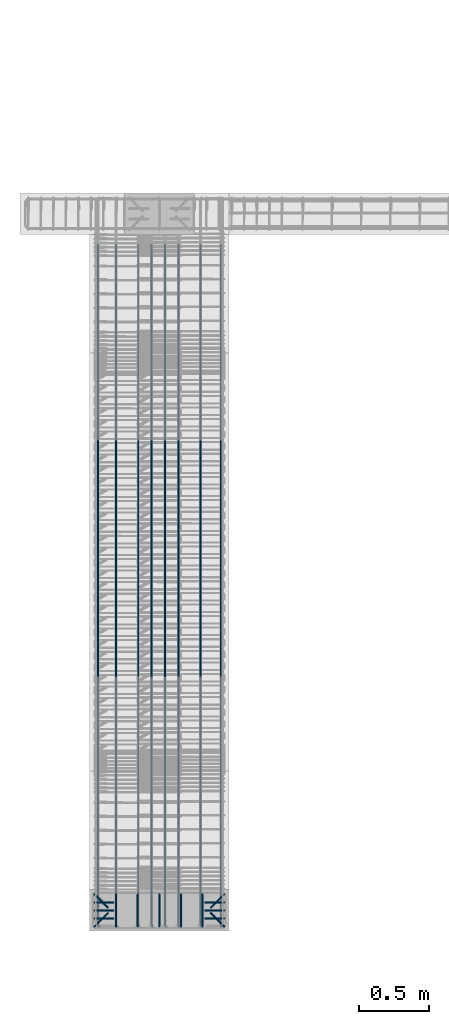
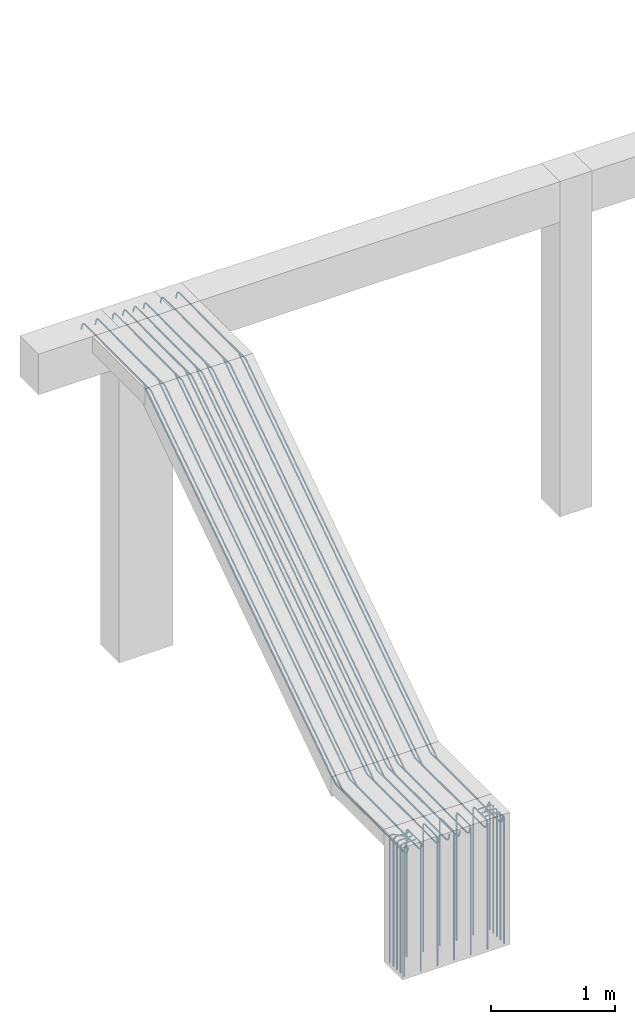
# One storey, part 3 of 24: 3 reinforcing bars.
"""IFC2X3 building model written with IfcOpenShell, lengths in metres."""

from ifc_helpers import new_model, entity, si_unit, direction, frame, origin, place, context, subcontext, project, spatial, shape, source, transform, mapped, element, save


model = new_model("IFC2X3")

# Units and contexts
model_context = context("Model", 3, precision=0.0, world=origin(), true_north=direction((0.0, 1.0)))
plan_context = context("Plan", 3, precision=0.0, world=origin(), true_north=direction((0.0, 1.0)))
body_context = subcontext(model_context, "Body", "Model", "MODEL_VIEW", scale=1.0)
ifc_project = project(units=[si_unit("LENGTHUNIT", "METRE"), si_unit("AREAUNIT", "SQUARE_METRE"), si_unit("VOLUMEUNIT", "CUBIC_METRE"), si_unit("PLANEANGLEUNIT", "RADIAN"), si_unit("THERMODYNAMICTEMPERATUREUNIT", "DEGREE_CELSIUS"), si_unit("FORCEUNIT", "NEWTON"), si_unit("MASSUNIT", "GRAM", prefix="KILO")], contexts=[model_context, plan_context])

# Site, building, storey
placement = place(None, origin())
site = spatial("IfcSite", under=ifc_project, at=placement, Name="Default Site", CompositionType="ELEMENT")
building = spatial("IfcBuilding", under=site, at=placement, Name="Default Building", CompositionType="ELEMENT")
storey_placement = place(placement, frame((0.0, 0.0, 3.3), z_axis=(1.0, 0.0, 0.0), x_axis=(0.0, 0.0, 1.0)))
storey = spatial("IfcBuildingStorey", under=building, at=storey_placement, Name="Piano 2", CompositionType="ELEMENT", Elevation=3.3)

# Reinforcing bars
shared_shape_1 = source(origin(), body_context, None, "AdvancedSweptSolid", [
    entity("IfcSweptDiskSolid", entity("IfcCompositeCurve", [entity("IfcCompositeCurveSegment", "CONTINUOUS", True, entity("IfcPolyline", [entity("IfcCartesianPoint", [0.0, 0.0, 0.0]), entity("IfcCartesianPoint", [0.0, 0.646145, 0.0]), entity("IfcCartesianPoint", [0.0, 0.661676, 0.004703]), entity("IfcCartesianPoint", [0.0, 0.750622, 0.064]), entity("IfcCartesianPoint", [0.0, 3.743568, 2.059297]), entity("IfcCartesianPoint", [0.0, 3.7591, 2.064]), entity("IfcCartesianPoint", [0.0, 4.820997, 2.064]), entity("IfcCartesianPoint", [-0.000736, 4.834997, 2.060322]), entity("IfcCartesianPoint", [-0.002746, 4.845246, 2.050272]), entity("IfcCartesianPoint", [-0.005491, 4.848997, 2.036544]), entity("IfcCartesianPoint", [-0.0128, 4.848997, 2.0])]))], False), 0.007, 0.0, 0.0),
])
shared_shape_2 = source(origin(), body_context, None, "MappedRepresentation", [mapped(shared_shape_1, transform((-3.559, 0.25912, 1.196824)))])
shared_shape_3 = source(origin(), body_context, None, "AdvancedSweptSolid", [
    entity("IfcSweptDiskSolid", entity("IfcCompositeCurve", [entity("IfcCompositeCurveSegment", "CONTINUOUS", True, entity("IfcPolyline", [entity("IfcCartesianPoint", [0.0, 0.0, 0.0]), entity("IfcCartesianPoint", [0.0, 0.646145, 0.0]), entity("IfcCartesianPoint", [0.0, 0.661676, 0.004703]), entity("IfcCartesianPoint", [0.0, 0.750622, 0.064]), entity("IfcCartesianPoint", [0.0, 3.743568, 2.059297]), entity("IfcCartesianPoint", [0.0, 3.7591, 2.064]), entity("IfcCartesianPoint", [0.0, 4.820997, 2.064]), entity("IfcCartesianPoint", [-0.000736, 4.834997, 2.060322]), entity("IfcCartesianPoint", [-0.002746, 4.845246, 2.050272]), entity("IfcCartesianPoint", [-0.005491, 4.848997, 2.036544]), entity("IfcCartesianPoint", [-0.0128, 4.848997, 2.0])]))], False), 0.007, 0.0, 0.0),
])
shared_shape_4 = source(origin(), body_context, None, "MappedRepresentation", [mapped(shared_shape_3, transform((-3.703667, 0.25912, 1.196824)))])
shared_shape_5 = source(origin(), body_context, None, "AdvancedSweptSolid", [
    entity("IfcSweptDiskSolid", entity("IfcCompositeCurve", [entity("IfcCompositeCurveSegment", "CONTINUOUS", True, entity("IfcPolyline", [entity("IfcCartesianPoint", [0.0, 0.0, 0.0]), entity("IfcCartesianPoint", [0.0, 0.646145, 0.0]), entity("IfcCartesianPoint", [0.0, 0.661676, 0.004703]), entity("IfcCartesianPoint", [0.0, 0.750622, 0.064]), entity("IfcCartesianPoint", [0.0, 3.743568, 2.059297]), entity("IfcCartesianPoint", [0.0, 3.7591, 2.064]), entity("IfcCartesianPoint", [0.0, 4.820997, 2.064]), entity("IfcCartesianPoint", [-0.000736, 4.834997, 2.060322]), entity("IfcCartesianPoint", [-0.002746, 4.845246, 2.050272]), entity("IfcCartesianPoint", [-0.005491, 4.848997, 2.036544]), entity("IfcCartesianPoint", [-0.0128, 4.848997, 2.0])]))], False), 0.007, 0.0, 0.0),
])
shared_shape_6 = source(origin(), body_context, None, "MappedRepresentation", [mapped(shared_shape_5, transform((-3.862667, 0.25912, 1.196824)))])
shared_shape_7 = source(origin(), body_context, None, "AdvancedSweptSolid", [
    entity("IfcSweptDiskSolid", entity("IfcCompositeCurve", [entity("IfcCompositeCurveSegment", "CONTINUOUS", True, entity("IfcPolyline", [entity("IfcCartesianPoint", [0.0, 0.0, 0.0]), entity("IfcCartesianPoint", [0.0, 0.646145, 0.0]), entity("IfcCartesianPoint", [0.0, 0.661676, 0.004703]), entity("IfcCartesianPoint", [0.0, 0.750622, 0.064]), entity("IfcCartesianPoint", [0.0, 3.743568, 2.059297]), entity("IfcCartesianPoint", [0.0, 3.7591, 2.064]), entity("IfcCartesianPoint", [0.0, 4.820997, 2.064]), entity("IfcCartesianPoint", [-0.000736, 4.834997, 2.060322]), entity("IfcCartesianPoint", [-0.002746, 4.845246, 2.050272]), entity("IfcCartesianPoint", [-0.005491, 4.848997, 2.036544]), entity("IfcCartesianPoint", [-0.0128, 4.848997, 2.0])]))], False), 0.007, 0.0, 0.0),
])
shared_shape_8 = source(origin(), body_context, None, "MappedRepresentation", [mapped(shared_shape_7, transform((-3.958889, 0.25912, 1.196824)))])
shared_shape_9 = source(origin(), body_context, None, "AdvancedSweptSolid", [
    entity("IfcSweptDiskSolid", entity("IfcCompositeCurve", [entity("IfcCompositeCurveSegment", "CONTINUOUS", True, entity("IfcPolyline", [entity("IfcCartesianPoint", [0.0, 0.0, 0.0]), entity("IfcCartesianPoint", [0.0, 0.646145, 0.0]), entity("IfcCartesianPoint", [0.0, 0.661676, 0.004703]), entity("IfcCartesianPoint", [0.0, 0.750622, 0.064]), entity("IfcCartesianPoint", [0.0, 3.743568, 2.059297]), entity("IfcCartesianPoint", [0.0, 3.7591, 2.064]), entity("IfcCartesianPoint", [0.0, 4.820997, 2.064]), entity("IfcCartesianPoint", [-0.000736, 4.834997, 2.060322]), entity("IfcCartesianPoint", [-0.002746, 4.845246, 2.050272]), entity("IfcCartesianPoint", [-0.005491, 4.848997, 2.036544]), entity("IfcCartesianPoint", [-0.0128, 4.848997, 2.0])]))], False), 0.007, 0.0, 0.0),
])
shared_shape_10 = source(origin(), body_context, None, "MappedRepresentation", [mapped(shared_shape_9, transform((-4.055111, 0.25912, 1.196824)))])
shared_shape_11 = source(origin(), body_context, None, "AdvancedSweptSolid", [
    entity("IfcSweptDiskSolid", entity("IfcCompositeCurve", [entity("IfcCompositeCurveSegment", "CONTINUOUS", True, entity("IfcPolyline", [entity("IfcCartesianPoint", [0.0, 0.0, 0.0]), entity("IfcCartesianPoint", [0.0, 0.646145, 0.0]), entity("IfcCartesianPoint", [0.0, 0.661676, 0.004703]), entity("IfcCartesianPoint", [0.0, 0.750622, 0.064]), entity("IfcCartesianPoint", [0.0, 3.743568, 2.059297]), entity("IfcCartesianPoint", [0.0, 3.7591, 2.064]), entity("IfcCartesianPoint", [0.0, 4.820997, 2.064]), entity("IfcCartesianPoint", [-0.000736, 4.834997, 2.060322]), entity("IfcCartesianPoint", [-0.002746, 4.845246, 2.050272]), entity("IfcCartesianPoint", [-0.005491, 4.848997, 2.036544]), entity("IfcCartesianPoint", [-0.0128, 4.848997, 2.0])]))], False), 0.007, 0.0, 0.0),
])
shared_shape_12 = source(origin(), body_context, None, "MappedRepresentation", [mapped(shared_shape_11, transform((-4.151333, 0.25912, 1.196824)))])
shared_shape_13 = source(origin(), body_context, None, "AdvancedSweptSolid", [
    entity("IfcSweptDiskSolid", entity("IfcCompositeCurve", [entity("IfcCompositeCurveSegment", "CONTINUOUS", True, entity("IfcPolyline", [entity("IfcCartesianPoint", [0.0, 0.0, 0.0]), entity("IfcCartesianPoint", [0.0, 0.646145, 0.0]), entity("IfcCartesianPoint", [0.0, 0.661676, 0.004703]), entity("IfcCartesianPoint", [0.0, 0.750622, 0.064]), entity("IfcCartesianPoint", [0.0, 3.743568, 2.059297]), entity("IfcCartesianPoint", [0.0, 3.7591, 2.064]), entity("IfcCartesianPoint", [0.0, 4.820997, 2.064]), entity("IfcCartesianPoint", [-0.000736, 4.834997, 2.060322]), entity("IfcCartesianPoint", [-0.002746, 4.845246, 2.050272]), entity("IfcCartesianPoint", [-0.005491, 4.848997, 2.036544]), entity("IfcCartesianPoint", [-0.0128, 4.848997, 2.0])]))], False), 0.007, 0.0, 0.0),
])
shared_shape_14 = source(origin(), body_context, None, "MappedRepresentation", [mapped(shared_shape_13, transform((-4.310333, 0.25912, 1.196824)))])
shared_shape_15 = source(origin(), body_context, None, "AdvancedSweptSolid", [
    entity("IfcSweptDiskSolid", entity("IfcCompositeCurve", [entity("IfcCompositeCurveSegment", "CONTINUOUS", True, entity("IfcPolyline", [entity("IfcCartesianPoint", [0.0, 0.0, 0.0]), entity("IfcCartesianPoint", [0.0, 0.646145, 0.0]), entity("IfcCartesianPoint", [0.0, 0.661676, 0.004703]), entity("IfcCartesianPoint", [0.0, 0.750622, 0.064]), entity("IfcCartesianPoint", [0.0, 3.743568, 2.059297]), entity("IfcCartesianPoint", [0.0, 3.7591, 2.064]), entity("IfcCartesianPoint", [0.0, 4.820997, 2.064]), entity("IfcCartesianPoint", [-0.000736, 4.834997, 2.060322]), entity("IfcCartesianPoint", [-0.002746, 4.845246, 2.050272]), entity("IfcCartesianPoint", [-0.005491, 4.848997, 2.036544]), entity("IfcCartesianPoint", [-0.0128, 4.848997, 2.0])]))], False), 0.007, 0.0, 0.0),
])
shared_shape_16 = source(origin(), body_context, None, "MappedRepresentation", [mapped(shared_shape_15, transform((-4.441, 0.25912, 1.196824)))])
element("IfcReinforcingBar", 1, at=placement, inside=storey, Name="Arm Superiore; Trave:2 [Piano:2]", BarLength=44.299577, BarRole="MAIN", BarSurface="TEXTURED", NominalDiameter=0.014, shapes=[
    shape(body_context, None, "MappedRepresentation", [mapped(shared_shape_2, transform((0.0, 0.0, 0.0))), mapped(shared_shape_4, transform((0.0, 0.0, 0.0))), mapped(shared_shape_6, transform((0.0, 0.0, 0.0))), mapped(shared_shape_8, transform((0.0, 0.0, 0.0))), mapped(shared_shape_10, transform((0.0, 0.0, 0.0))), mapped(shared_shape_12, transform((0.0, 0.0, 0.0))), mapped(shared_shape_14, transform((0.0, 0.0, 0.0))), mapped(shared_shape_16, transform((0.0, 0.0, 0.0)))]),
])
shared_shape_17 = source(origin(), body_context, None, "AdvancedSweptSolid", [
    entity("IfcSweptDiskSolid", entity("IfcCompositeCurve", [entity("IfcCompositeCurveSegment", "CONTINUOUS", True, entity("IfcPolyline", [entity("IfcCartesianPoint", [0.0, 0.0, 0.0]), entity("IfcCartesianPoint", [-0.007309, 0.0, -0.036544]), entity("IfcCartesianPoint", [-0.010054, 0.003751, -0.050272]), entity("IfcCartesianPoint", [-0.012064, 0.014, -0.060322]), entity("IfcCartesianPoint", [-0.0128, 0.028, -0.064]), entity("IfcCartesianPoint", [-0.0128, 1.138341, -0.064]), entity("IfcCartesianPoint", [-0.0128, 1.153873, -0.059297]), entity("IfcCartesianPoint", [-0.0128, 4.146819, 1.936]), entity("IfcCartesianPoint", [-0.0128, 4.235765, 1.995297]), entity("IfcCartesianPoint", [-0.0128, 4.251297, 2.0]), entity("IfcCartesianPoint", [-0.0128, 4.897442, 2.0])]))], False), 0.007, 0.0, 0.0),
])
shared_shape_18 = source(origin(), body_context, None, "MappedRepresentation", [mapped(shared_shape_17, transform((-3.5462, -0.115883, 1.254824)))])
shared_shape_19 = source(origin(), body_context, None, "AdvancedSweptSolid", [
    entity("IfcSweptDiskSolid", entity("IfcCompositeCurve", [entity("IfcCompositeCurveSegment", "CONTINUOUS", True, entity("IfcPolyline", [entity("IfcCartesianPoint", [0.0, 0.0, 0.0]), entity("IfcCartesianPoint", [-0.007309, 0.0, -0.036544]), entity("IfcCartesianPoint", [-0.010054, 0.003751, -0.050272]), entity("IfcCartesianPoint", [-0.012064, 0.014, -0.060322]), entity("IfcCartesianPoint", [-0.0128, 0.028, -0.064]), entity("IfcCartesianPoint", [-0.0128, 1.138341, -0.064]), entity("IfcCartesianPoint", [-0.0128, 1.153873, -0.059297]), entity("IfcCartesianPoint", [-0.0128, 4.146819, 1.936]), entity("IfcCartesianPoint", [-0.0128, 4.235765, 1.995297]), entity("IfcCartesianPoint", [-0.0128, 4.251297, 2.0]), entity("IfcCartesianPoint", [-0.0128, 4.897442, 2.0])]))], False), 0.007, 0.0, 0.0),
])
shared_shape_20 = source(origin(), body_context, None, "MappedRepresentation", [
    mapped(shared_shape_19, transform((-3.690867, -0.115883, 1.254824))),
])
shared_shape_21 = source(origin(), body_context, None, "AdvancedSweptSolid", [
    entity("IfcSweptDiskSolid", entity("IfcCompositeCurve", [entity("IfcCompositeCurveSegment", "CONTINUOUS", True, entity("IfcPolyline", [entity("IfcCartesianPoint", [0.0, 0.0, 0.0]), entity("IfcCartesianPoint", [-0.007309, 0.0, -0.036544]), entity("IfcCartesianPoint", [-0.010054, 0.003751, -0.050272]), entity("IfcCartesianPoint", [-0.012064, 0.014, -0.060322]), entity("IfcCartesianPoint", [-0.0128, 0.028, -0.064]), entity("IfcCartesianPoint", [-0.0128, 1.138341, -0.064]), entity("IfcCartesianPoint", [-0.0128, 1.153873, -0.059297]), entity("IfcCartesianPoint", [-0.0128, 4.146819, 1.936]), entity("IfcCartesianPoint", [-0.0128, 4.235765, 1.995297]), entity("IfcCartesianPoint", [-0.0128, 4.251297, 2.0]), entity("IfcCartesianPoint", [-0.0128, 4.897442, 2.0])]))], False), 0.007, 0.0, 0.0),
])
shared_shape_22 = source(origin(), body_context, None, "MappedRepresentation", [
    mapped(shared_shape_21, transform((-3.849867, -0.115883, 1.254824))),
])
shared_shape_23 = source(origin(), body_context, None, "AdvancedSweptSolid", [
    entity("IfcSweptDiskSolid", entity("IfcCompositeCurve", [entity("IfcCompositeCurveSegment", "CONTINUOUS", True, entity("IfcPolyline", [entity("IfcCartesianPoint", [0.0, 0.0, 0.0]), entity("IfcCartesianPoint", [-0.007309, 0.0, -0.036544]), entity("IfcCartesianPoint", [-0.010054, 0.003751, -0.050272]), entity("IfcCartesianPoint", [-0.012064, 0.014, -0.060322]), entity("IfcCartesianPoint", [-0.0128, 0.028, -0.064]), entity("IfcCartesianPoint", [-0.0128, 1.138341, -0.064]), entity("IfcCartesianPoint", [-0.0128, 1.153873, -0.059297]), entity("IfcCartesianPoint", [-0.0128, 4.146819, 1.936]), entity("IfcCartesianPoint", [-0.0128, 4.235765, 1.995297]), entity("IfcCartesianPoint", [-0.0128, 4.251297, 2.0]), entity("IfcCartesianPoint", [-0.0128, 4.897442, 2.0])]))], False), 0.007, 0.0, 0.0),
])
shared_shape_24 = source(origin(), body_context, None, "MappedRepresentation", [
    mapped(shared_shape_23, transform((-3.946089, -0.115883, 1.254824))),
])
shared_shape_25 = source(origin(), body_context, None, "AdvancedSweptSolid", [
    entity("IfcSweptDiskSolid", entity("IfcCompositeCurve", [entity("IfcCompositeCurveSegment", "CONTINUOUS", True, entity("IfcPolyline", [entity("IfcCartesianPoint", [0.0, 0.0, 0.0]), entity("IfcCartesianPoint", [-0.007309, 0.0, -0.036544]), entity("IfcCartesianPoint", [-0.010054, 0.003751, -0.050272]), entity("IfcCartesianPoint", [-0.012064, 0.014, -0.060322]), entity("IfcCartesianPoint", [-0.0128, 0.028, -0.064]), entity("IfcCartesianPoint", [-0.0128, 1.138341, -0.064]), entity("IfcCartesianPoint", [-0.0128, 1.153873, -0.059297]), entity("IfcCartesianPoint", [-0.0128, 4.146819, 1.936]), entity("IfcCartesianPoint", [-0.0128, 4.235765, 1.995297]), entity("IfcCartesianPoint", [-0.0128, 4.251297, 2.0]), entity("IfcCartesianPoint", [-0.0128, 4.897442, 2.0])]))], False), 0.007, 0.0, 0.0),
])
shared_shape_26 = source(origin(), body_context, None, "MappedRepresentation", [
    mapped(shared_shape_25, transform((-4.042311, -0.115883, 1.254824))),
])
shared_shape_27 = source(origin(), body_context, None, "AdvancedSweptSolid", [
    entity("IfcSweptDiskSolid", entity("IfcCompositeCurve", [entity("IfcCompositeCurveSegment", "CONTINUOUS", True, entity("IfcPolyline", [entity("IfcCartesianPoint", [0.0, 0.0, 0.0]), entity("IfcCartesianPoint", [-0.007309, 0.0, -0.036544]), entity("IfcCartesianPoint", [-0.010054, 0.003751, -0.050272]), entity("IfcCartesianPoint", [-0.012064, 0.014, -0.060322]), entity("IfcCartesianPoint", [-0.0128, 0.028, -0.064]), entity("IfcCartesianPoint", [-0.0128, 1.138341, -0.064]), entity("IfcCartesianPoint", [-0.0128, 1.153873, -0.059297]), entity("IfcCartesianPoint", [-0.0128, 4.146819, 1.936]), entity("IfcCartesianPoint", [-0.0128, 4.235765, 1.995297]), entity("IfcCartesianPoint", [-0.0128, 4.251297, 2.0]), entity("IfcCartesianPoint", [-0.0128, 4.897442, 2.0])]))], False), 0.007, 0.0, 0.0),
])
shared_shape_28 = source(origin(), body_context, None, "MappedRepresentation", [
    mapped(shared_shape_27, transform((-4.138533, -0.115883, 1.254824))),
])
shared_shape_29 = source(origin(), body_context, None, "AdvancedSweptSolid", [
    entity("IfcSweptDiskSolid", entity("IfcCompositeCurve", [entity("IfcCompositeCurveSegment", "CONTINUOUS", True, entity("IfcPolyline", [entity("IfcCartesianPoint", [0.0, 0.0, 0.0]), entity("IfcCartesianPoint", [-0.007309, 0.0, -0.036544]), entity("IfcCartesianPoint", [-0.010054, 0.003751, -0.050272]), entity("IfcCartesianPoint", [-0.012064, 0.014, -0.060322]), entity("IfcCartesianPoint", [-0.0128, 0.028, -0.064]), entity("IfcCartesianPoint", [-0.0128, 1.138341, -0.064]), entity("IfcCartesianPoint", [-0.0128, 1.153873, -0.059297]), entity("IfcCartesianPoint", [-0.0128, 4.146819, 1.936]), entity("IfcCartesianPoint", [-0.0128, 4.235765, 1.995297]), entity("IfcCartesianPoint", [-0.0128, 4.251297, 2.0]), entity("IfcCartesianPoint", [-0.0128, 4.897442, 2.0])]))], False), 0.007, 0.0, 0.0),
])
shared_shape_30 = source(origin(), body_context, None, "MappedRepresentation", [
    mapped(shared_shape_29, transform((-4.297533, -0.115883, 1.254824))),
])
shared_shape_31 = source(origin(), body_context, None, "AdvancedSweptSolid", [
    entity("IfcSweptDiskSolid", entity("IfcCompositeCurve", [entity("IfcCompositeCurveSegment", "CONTINUOUS", True, entity("IfcPolyline", [entity("IfcCartesianPoint", [0.0, 0.0, 0.0]), entity("IfcCartesianPoint", [-0.007309, 0.0, -0.036544]), entity("IfcCartesianPoint", [-0.010054, 0.003751, -0.050272]), entity("IfcCartesianPoint", [-0.012064, 0.014, -0.060322]), entity("IfcCartesianPoint", [-0.0128, 0.028, -0.064]), entity("IfcCartesianPoint", [-0.0128, 1.138341, -0.064]), entity("IfcCartesianPoint", [-0.0128, 1.153873, -0.059297]), entity("IfcCartesianPoint", [-0.0128, 4.146819, 1.936]), entity("IfcCartesianPoint", [-0.0128, 4.235765, 1.995297]), entity("IfcCartesianPoint", [-0.0128, 4.251297, 2.0]), entity("IfcCartesianPoint", [-0.0128, 4.897442, 2.0])]))], False), 0.007, 0.0, 0.0),
])
shared_shape_32 = source(origin(), body_context, None, "MappedRepresentation", [mapped(shared_shape_31, transform((-4.4282, -0.115883, 1.254824)))])
element("IfcReinforcingBar", 2, at=placement, inside=storey, Name="Arm Inferiore; Trave:2 [Piano:2]", BarLength=44.68713, BarRole="MAIN", BarSurface="TEXTURED", NominalDiameter=0.014, shapes=[
    shape(body_context, None, "MappedRepresentation", [mapped(shared_shape_18, transform((0.0, 0.0, 0.0))), mapped(shared_shape_20, transform((0.0, 0.0, 0.0))), mapped(shared_shape_22, transform((0.0, 0.0, 0.0))), mapped(shared_shape_24, transform((0.0, 0.0, 0.0))), mapped(shared_shape_26, transform((0.0, 0.0, 0.0))), mapped(shared_shape_28, transform((0.0, 0.0, 0.0))), mapped(shared_shape_30, transform((0.0, 0.0, 0.0))), mapped(shared_shape_32, transform((0.0, 0.0, 0.0)))]),
])
shared_shape_33 = source(origin(), body_context, None, "AdvancedSweptSolid", [
    entity("IfcSweptDiskSolid", entity("IfcCompositeCurve", [entity("IfcCompositeCurveSegment", "CONTINUOUS", True, entity("IfcPolyline", [entity("IfcCartesianPoint", [0.0, 0.0, 0.0]), entity("IfcCartesianPoint", [0.0, 0.0, 1.237]), entity("IfcCartesianPoint", [-0.002653, 0.002653, 1.251]), entity("IfcCartesianPoint", [-0.009899, 0.009899, 1.261249]), entity("IfcCartesianPoint", [-0.019799, 0.019799, 1.265]), entity("IfcCartesianPoint", [-0.098995, 0.098995, 1.265])]))], False), 0.007, 0.0, 0.0),
])
shared_shape_34 = source(origin(), body_context, None, "MappedRepresentation", [mapped(shared_shape_33, transform((-3.535, -0.115, 0.0)))])
shared_shape_35 = source(origin(), body_context, None, "AdvancedSweptSolid", [
    entity("IfcSweptDiskSolid", entity("IfcCompositeCurve", [entity("IfcCompositeCurveSegment", "CONTINUOUS", True, entity("IfcPolyline", [entity("IfcCartesianPoint", [0.0, 0.0, 0.0]), entity("IfcCartesianPoint", [0.0, 0.0, 1.237]), entity("IfcCartesianPoint", [-0.002653, -0.002653, 1.251]), entity("IfcCartesianPoint", [-0.009899, -0.009899, 1.261249]), entity("IfcCartesianPoint", [-0.019799, -0.019799, 1.265]), entity("IfcCartesianPoint", [-0.098995, -0.098995, 1.265])]))], False), 0.007, 0.0, 0.0),
])
shared_shape_36 = source(origin(), body_context, None, "MappedRepresentation", [mapped(shared_shape_35, transform((-3.535, 0.115, 0.0)))])
shared_shape_37 = source(origin(), body_context, None, "AdvancedSweptSolid", [
    entity("IfcSweptDiskSolid", entity("IfcCompositeCurve", [entity("IfcCompositeCurveSegment", "CONTINUOUS", True, entity("IfcPolyline", [entity("IfcCartesianPoint", [0.0, 0.0, 0.0]), entity("IfcCartesianPoint", [0.0, 0.0, 1.237]), entity("IfcCartesianPoint", [0.002653, -0.002653, 1.251]), entity("IfcCartesianPoint", [0.009899, -0.009899, 1.261249]), entity("IfcCartesianPoint", [0.019799, -0.019799, 1.265]), entity("IfcCartesianPoint", [0.098995, -0.098995, 1.265])]))], False), 0.007, 0.0, 0.0),
])
shared_shape_38 = source(origin(), body_context, None, "MappedRepresentation", [mapped(shared_shape_37, transform((-4.465, 0.115, 0.0)))])
shared_shape_39 = source(origin(), body_context, None, "AdvancedSweptSolid", [
    entity("IfcSweptDiskSolid", entity("IfcCompositeCurve", [entity("IfcCompositeCurveSegment", "CONTINUOUS", True, entity("IfcPolyline", [entity("IfcCartesianPoint", [0.0, 0.0, 0.0]), entity("IfcCartesianPoint", [0.0, 0.0, 1.237]), entity("IfcCartesianPoint", [0.002653, 0.002653, 1.251]), entity("IfcCartesianPoint", [0.009899, 0.009899, 1.261249]), entity("IfcCartesianPoint", [0.019799, 0.019799, 1.265]), entity("IfcCartesianPoint", [0.098995, 0.098995, 1.265])]))], False), 0.007, 0.0, 0.0),
])
shared_shape_40 = source(origin(), body_context, None, "MappedRepresentation", [mapped(shared_shape_39, transform((-4.465, -0.115, 0.0)))])
shared_shape_41 = source(origin(), body_context, None, "AdvancedSweptSolid", [
    entity("IfcSweptDiskSolid", entity("IfcCompositeCurve", [entity("IfcCompositeCurveSegment", "CONTINUOUS", True, entity("IfcPolyline", [entity("IfcCartesianPoint", [0.0, 0.0, 0.0]), entity("IfcCartesianPoint", [0.0, 0.0, 1.237]), entity("IfcCartesianPoint", [-0.003751, 0.0, 1.251]), entity("IfcCartesianPoint", [-0.014, 0.0, 1.261249]), entity("IfcCartesianPoint", [-0.028, 0.0, 1.265]), entity("IfcCartesianPoint", [-0.14, 0.0, 1.265])]))], False), 0.007, 0.0, 0.0),
])
shared_shape_42 = source(origin(), body_context, None, "MappedRepresentation", [mapped(shared_shape_41, transform((-3.535, -0.0575, 0.0)))])
shared_shape_43 = source(origin(), body_context, None, "AdvancedSweptSolid", [
    entity("IfcSweptDiskSolid", entity("IfcCompositeCurve", [entity("IfcCompositeCurveSegment", "CONTINUOUS", True, entity("IfcPolyline", [entity("IfcCartesianPoint", [0.0, 0.0, 0.0]), entity("IfcCartesianPoint", [0.0, 0.0, 1.237]), entity("IfcCartesianPoint", [-0.003751, 0.0, 1.251]), entity("IfcCartesianPoint", [-0.014, 0.0, 1.261249]), entity("IfcCartesianPoint", [-0.028, 0.0, 1.265]), entity("IfcCartesianPoint", [-0.14, 0.0, 1.265])]))], False), 0.007, 0.0, 0.0),
])
shared_shape_44 = source(origin(), body_context, None, "MappedRepresentation", [mapped(shared_shape_43, transform((-3.535, 0.0, 0.0)))])
shared_shape_45 = source(origin(), body_context, None, "AdvancedSweptSolid", [
    entity("IfcSweptDiskSolid", entity("IfcCompositeCurve", [entity("IfcCompositeCurveSegment", "CONTINUOUS", True, entity("IfcPolyline", [entity("IfcCartesianPoint", [0.0, 0.0, 0.0]), entity("IfcCartesianPoint", [0.0, 0.0, 1.237]), entity("IfcCartesianPoint", [-0.003751, 0.0, 1.251]), entity("IfcCartesianPoint", [-0.014, 0.0, 1.261249]), entity("IfcCartesianPoint", [-0.028, 0.0, 1.265]), entity("IfcCartesianPoint", [-0.14, 0.0, 1.265])]))], False), 0.007, 0.0, 0.0),
])
shared_shape_46 = source(origin(), body_context, None, "MappedRepresentation", [mapped(shared_shape_45, transform((-3.535, 0.0575, 0.0)))])
shared_shape_47 = source(origin(), body_context, None, "AdvancedSweptSolid", [
    entity("IfcSweptDiskSolid", entity("IfcCompositeCurve", [entity("IfcCompositeCurveSegment", "CONTINUOUS", True, entity("IfcPolyline", [entity("IfcCartesianPoint", [0.0, 0.0, 0.0]), entity("IfcCartesianPoint", [0.0, 0.0, 1.237]), entity("IfcCartesianPoint", [0.0, -0.003751, 1.251]), entity("IfcCartesianPoint", [0.0, -0.014, 1.261249]), entity("IfcCartesianPoint", [0.0, -0.028, 1.265]), entity("IfcCartesianPoint", [0.0, -0.14, 1.265])]))], False), 0.007, 0.0, 0.0),
])
shared_shape_48 = source(origin(), body_context, None, "MappedRepresentation", [mapped(shared_shape_47, transform((-3.69, 0.115, 0.0)))])
shared_shape_49 = source(origin(), body_context, None, "AdvancedSweptSolid", [
    entity("IfcSweptDiskSolid", entity("IfcCompositeCurve", [entity("IfcCompositeCurveSegment", "CONTINUOUS", True, entity("IfcPolyline", [entity("IfcCartesianPoint", [0.0, 0.0, 0.0]), entity("IfcCartesianPoint", [0.0, 0.0, 1.237]), entity("IfcCartesianPoint", [0.0, -0.003751, 1.251]), entity("IfcCartesianPoint", [0.0, -0.014, 1.261249]), entity("IfcCartesianPoint", [0.0, -0.028, 1.265]), entity("IfcCartesianPoint", [0.0, -0.14, 1.265])]))], False), 0.007, 0.0, 0.0),
])
shared_shape_50 = source(origin(), body_context, None, "MappedRepresentation", [mapped(shared_shape_49, transform((-3.845, 0.115, 0.0)))])
shared_shape_51 = source(origin(), body_context, None, "AdvancedSweptSolid", [
    entity("IfcSweptDiskSolid", entity("IfcCompositeCurve", [entity("IfcCompositeCurveSegment", "CONTINUOUS", True, entity("IfcPolyline", [entity("IfcCartesianPoint", [0.0, 0.0, 0.0]), entity("IfcCartesianPoint", [0.0, 0.0, 1.237]), entity("IfcCartesianPoint", [0.0, -0.003751, 1.251]), entity("IfcCartesianPoint", [0.0, -0.014, 1.261249]), entity("IfcCartesianPoint", [0.0, -0.028, 1.265]), entity("IfcCartesianPoint", [0.0, -0.14, 1.265])]))], False), 0.007, 0.0, 0.0),
])
shared_shape_52 = source(origin(), body_context, None, "MappedRepresentation", [mapped(shared_shape_51, transform((-4.0, 0.115, 0.0)))])
shared_shape_53 = source(origin(), body_context, None, "AdvancedSweptSolid", [
    entity("IfcSweptDiskSolid", entity("IfcCompositeCurve", [entity("IfcCompositeCurveSegment", "CONTINUOUS", True, entity("IfcPolyline", [entity("IfcCartesianPoint", [0.0, 0.0, 0.0]), entity("IfcCartesianPoint", [0.0, 0.0, 1.237]), entity("IfcCartesianPoint", [0.0, -0.003751, 1.251]), entity("IfcCartesianPoint", [0.0, -0.014, 1.261249]), entity("IfcCartesianPoint", [0.0, -0.028, 1.265]), entity("IfcCartesianPoint", [0.0, -0.14, 1.265])]))], False), 0.007, 0.0, 0.0),
])
shared_shape_54 = source(origin(), body_context, None, "MappedRepresentation", [mapped(shared_shape_53, transform((-4.155, 0.115, 0.0)))])
shared_shape_55 = source(origin(), body_context, None, "AdvancedSweptSolid", [
    entity("IfcSweptDiskSolid", entity("IfcCompositeCurve", [entity("IfcCompositeCurveSegment", "CONTINUOUS", True, entity("IfcPolyline", [entity("IfcCartesianPoint", [0.0, 0.0, 0.0]), entity("IfcCartesianPoint", [0.0, 0.0, 1.237]), entity("IfcCartesianPoint", [0.0, -0.003751, 1.251]), entity("IfcCartesianPoint", [0.0, -0.014, 1.261249]), entity("IfcCartesianPoint", [0.0, -0.028, 1.265]), entity("IfcCartesianPoint", [0.0, -0.14, 1.265])]))], False), 0.007, 0.0, 0.0),
])
shared_shape_56 = source(origin(), body_context, None, "MappedRepresentation", [mapped(shared_shape_55, transform((-4.31, 0.115, 0.0)))])
shared_shape_57 = source(origin(), body_context, None, "AdvancedSweptSolid", [
    entity("IfcSweptDiskSolid", entity("IfcCompositeCurve", [entity("IfcCompositeCurveSegment", "CONTINUOUS", True, entity("IfcPolyline", [entity("IfcCartesianPoint", [0.0, 0.0, 0.0]), entity("IfcCartesianPoint", [0.0, 0.0, 1.237]), entity("IfcCartesianPoint", [0.003751, 0.0, 1.251]), entity("IfcCartesianPoint", [0.014, 0.0, 1.261249]), entity("IfcCartesianPoint", [0.028, 0.0, 1.265]), entity("IfcCartesianPoint", [0.14, 0.0, 1.265])]))], False), 0.007, 0.0, 0.0),
])
shared_shape_58 = source(origin(), body_context, None, "MappedRepresentation", [mapped(shared_shape_57, transform((-4.465, 0.0575, 0.0)))])
shared_shape_59 = source(origin(), body_context, None, "AdvancedSweptSolid", [
    entity("IfcSweptDiskSolid", entity("IfcCompositeCurve", [entity("IfcCompositeCurveSegment", "CONTINUOUS", True, entity("IfcPolyline", [entity("IfcCartesianPoint", [0.0, 0.0, 0.0]), entity("IfcCartesianPoint", [0.0, 0.0, 1.237]), entity("IfcCartesianPoint", [0.003751, 0.0, 1.251]), entity("IfcCartesianPoint", [0.014, 0.0, 1.261249]), entity("IfcCartesianPoint", [0.028, 0.0, 1.265]), entity("IfcCartesianPoint", [0.14, 0.0, 1.265])]))], False), 0.007, 0.0, 0.0),
])
shared_shape_60 = source(origin(), body_context, None, "MappedRepresentation", [mapped(shared_shape_59, transform((-4.465, 0.0, 0.0)))])
shared_shape_61 = source(origin(), body_context, None, "AdvancedSweptSolid", [
    entity("IfcSweptDiskSolid", entity("IfcCompositeCurve", [entity("IfcCompositeCurveSegment", "CONTINUOUS", True, entity("IfcPolyline", [entity("IfcCartesianPoint", [0.0, 0.0, 0.0]), entity("IfcCartesianPoint", [0.0, 0.0, 1.237]), entity("IfcCartesianPoint", [0.003751, 0.0, 1.251]), entity("IfcCartesianPoint", [0.014, 0.0, 1.261249]), entity("IfcCartesianPoint", [0.028, 0.0, 1.265]), entity("IfcCartesianPoint", [0.14, 0.0, 1.265])]))], False), 0.007, 0.0, 0.0),
])
shared_shape_62 = source(origin(), body_context, None, "MappedRepresentation", [mapped(shared_shape_61, transform((-4.465, -0.0575, 0.0)))])
shared_shape_63 = source(origin(), body_context, None, "AdvancedSweptSolid", [
    entity("IfcSweptDiskSolid", entity("IfcCompositeCurve", [entity("IfcCompositeCurveSegment", "CONTINUOUS", True, entity("IfcPolyline", [entity("IfcCartesianPoint", [0.0, 0.0, 0.0]), entity("IfcCartesianPoint", [0.0, 0.0, 1.237]), entity("IfcCartesianPoint", [0.0, 0.003751, 1.251]), entity("IfcCartesianPoint", [0.0, 0.014, 1.261249]), entity("IfcCartesianPoint", [0.0, 0.028, 1.265]), entity("IfcCartesianPoint", [0.0, 0.14, 1.265])]))], False), 0.007, 0.0, 0.0),
])
shared_shape_64 = source(origin(), body_context, None, "MappedRepresentation", [mapped(shared_shape_63, transform((-4.31, -0.115, 0.0)))])
shared_shape_65 = source(origin(), body_context, None, "AdvancedSweptSolid", [
    entity("IfcSweptDiskSolid", entity("IfcCompositeCurve", [entity("IfcCompositeCurveSegment", "CONTINUOUS", True, entity("IfcPolyline", [entity("IfcCartesianPoint", [0.0, 0.0, 0.0]), entity("IfcCartesianPoint", [0.0, 0.0, 1.237]), entity("IfcCartesianPoint", [0.0, 0.003751, 1.251]), entity("IfcCartesianPoint", [0.0, 0.014, 1.261249]), entity("IfcCartesianPoint", [0.0, 0.028, 1.265]), entity("IfcCartesianPoint", [0.0, 0.14, 1.265])]))], False), 0.007, 0.0, 0.0),
])
shared_shape_66 = source(origin(), body_context, None, "MappedRepresentation", [mapped(shared_shape_65, transform((-4.155, -0.115, 0.0)))])
shared_shape_67 = source(origin(), body_context, None, "AdvancedSweptSolid", [
    entity("IfcSweptDiskSolid", entity("IfcCompositeCurve", [entity("IfcCompositeCurveSegment", "CONTINUOUS", True, entity("IfcPolyline", [entity("IfcCartesianPoint", [0.0, 0.0, 0.0]), entity("IfcCartesianPoint", [0.0, 0.0, 1.237]), entity("IfcCartesianPoint", [0.0, 0.003751, 1.251]), entity("IfcCartesianPoint", [0.0, 0.014, 1.261249]), entity("IfcCartesianPoint", [0.0, 0.028, 1.265]), entity("IfcCartesianPoint", [0.0, 0.14, 1.265])]))], False), 0.007, 0.0, 0.0),
])
shared_shape_68 = source(origin(), body_context, None, "MappedRepresentation", [mapped(shared_shape_67, transform((-4.0, -0.115, 0.0)))])
shared_shape_69 = source(origin(), body_context, None, "AdvancedSweptSolid", [
    entity("IfcSweptDiskSolid", entity("IfcCompositeCurve", [entity("IfcCompositeCurveSegment", "CONTINUOUS", True, entity("IfcPolyline", [entity("IfcCartesianPoint", [0.0, 0.0, 0.0]), entity("IfcCartesianPoint", [0.0, 0.0, 1.237]), entity("IfcCartesianPoint", [0.0, 0.003751, 1.251]), entity("IfcCartesianPoint", [0.0, 0.014, 1.261249]), entity("IfcCartesianPoint", [0.0, 0.028, 1.265]), entity("IfcCartesianPoint", [0.0, 0.14, 1.265])]))], False), 0.007, 0.0, 0.0),
])
shared_shape_70 = source(origin(), body_context, None, "MappedRepresentation", [mapped(shared_shape_69, transform((-3.845, -0.115, 0.0)))])
shared_shape_71 = source(origin(), body_context, None, "AdvancedSweptSolid", [
    entity("IfcSweptDiskSolid", entity("IfcCompositeCurve", [entity("IfcCompositeCurveSegment", "CONTINUOUS", True, entity("IfcPolyline", [entity("IfcCartesianPoint", [0.0, 0.0, 0.0]), entity("IfcCartesianPoint", [0.0, 0.0, 1.237]), entity("IfcCartesianPoint", [0.0, 0.003751, 1.251]), entity("IfcCartesianPoint", [0.0, 0.014, 1.261249]), entity("IfcCartesianPoint", [0.0, 0.028, 1.265]), entity("IfcCartesianPoint", [0.0, 0.14, 1.265])]))], False), 0.007, 0.0, 0.0),
])
shared_shape_72 = source(origin(), body_context, None, "MappedRepresentation", [mapped(shared_shape_71, transform((-3.69, -0.115, 0.0)))])
element("IfcReinforcingBar", 3, at=placement, inside=storey, Name="Arm Principale; Pilastro:8 [Piano:2]", BarLength=27.999853, BarRole="MAIN", BarSurface="TEXTURED", NominalDiameter=0.014, shapes=[
    shape(body_context, None, "MappedRepresentation", [mapped(shared_shape_34, transform((0.0, 0.0, 0.0))), mapped(shared_shape_36, transform((0.0, 0.0, 0.0))), mapped(shared_shape_38, transform((0.0, 0.0, 0.0))), mapped(shared_shape_40, transform((0.0, 0.0, 0.0))), mapped(shared_shape_42, transform((0.0, 0.0, 0.0))), mapped(shared_shape_44, transform((0.0, 0.0, 0.0))), mapped(shared_shape_46, transform((0.0, 0.0, 0.0))), mapped(shared_shape_48, transform((0.0, 0.0, 0.0))), mapped(shared_shape_50, transform((0.0, 0.0, 0.0))), mapped(shared_shape_52, transform((0.0, 0.0, 0.0))), mapped(shared_shape_54, transform((0.0, 0.0, 0.0))), mapped(shared_shape_56, transform((0.0, 0.0, 0.0))), mapped(shared_shape_58, transform((0.0, 0.0, 0.0))), mapped(shared_shape_60, transform((0.0, 0.0, 0.0))), mapped(shared_shape_62, transform((0.0, 0.0, 0.0))), mapped(shared_shape_64, transform((0.0, 0.0, 0.0))), mapped(shared_shape_66, transform((0.0, 0.0, 0.0))), mapped(shared_shape_68, transform((0.0, 0.0, 0.0))), mapped(shared_shape_70, transform((0.0, 0.0, 0.0))), mapped(shared_shape_72, transform((0.0, 0.0, 0.0)))]),
])

save(model, "model.ifc")
